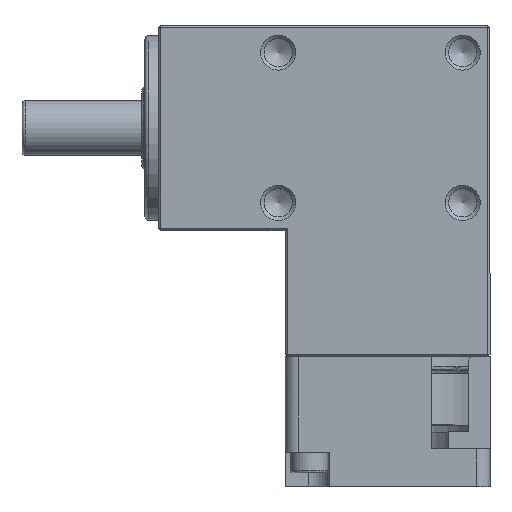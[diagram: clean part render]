
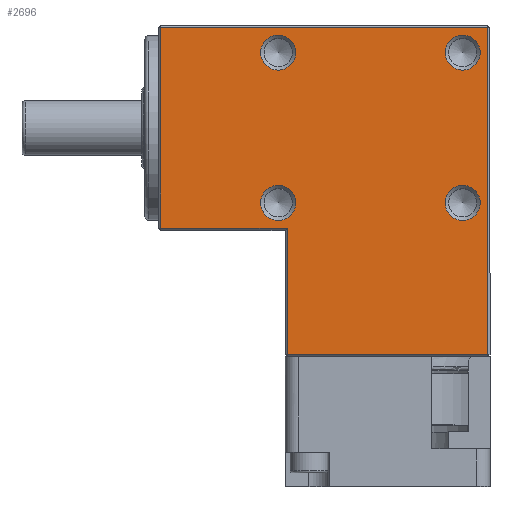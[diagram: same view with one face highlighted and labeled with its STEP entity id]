
A CAD part, top view. The second image highlights one B-rep face of the part: STEP entity #2696.
In plain terms, the highlighted planar face has unit normal (0, 0, 1).
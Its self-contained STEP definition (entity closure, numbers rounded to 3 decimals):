
#2593=CARTESIAN_POINT('',(-13.433,-11.0,30.0));
#2594=VERTEX_POINT('',#2593);
#2595=CARTESIAN_POINT('',(-16.,-11.0,30.0));
#2596=DIRECTION('',(0.0,0.0,1.0));
#2597=DIRECTION('',(-1.0,0.0,0.0));
#2598=AXIS2_PLACEMENT_3D('',#2595,#2596,#2597);
#2599=CIRCLE('',#2598,2.567);
#2600=EDGE_CURVE('',#2594,#2594,#2599,.T.);
#2605=CARTESIAN_POINT('',(0.,-24.25,30.0));
#2606=DIRECTION('',(0.0,0.0,1.0));
#2607=DIRECTION('',(1.0,0.0,0.0));
#2608=AXIS2_PLACEMENT_3D('',#2605,#2606,#2607);
#2609=PLANE('',#2608);
#2610=CARTESIAN_POINT('',(-14.7,-33.2,30.0));
#2611=VERTEX_POINT('',#2610);
#2612=CARTESIAN_POINT('',(-14.7,-14.7,30.0));
#2613=VERTEX_POINT('',#2612);
#2614=CARTESIAN_POINT('',(-14.7,-33.2,30.0));
#2615=DIRECTION('',(0.0,1.0,0.0));
#2616=VECTOR('',#2615,18.5);
#2617=LINE('',#2614,#2616);
#2618=EDGE_CURVE('',#2611,#2613,#2617,.T.);
#2619=ORIENTED_EDGE('',*,*,#2618,.F.);
#2620=CARTESIAN_POINT('',(14.7,-33.2,30.0));
#2621=VERTEX_POINT('',#2620);
#2622=CARTESIAN_POINT('',(14.7,-33.2,30.0));
#2623=DIRECTION('',(-1.0,0.0,0.0));
#2624=VECTOR('',#2623,29.4);
#2625=LINE('',#2622,#2624);
#2626=EDGE_CURVE('',#2621,#2611,#2625,.T.);
#2627=ORIENTED_EDGE('',*,*,#2626,.F.);
#2628=CARTESIAN_POINT('',(14.7,14.7,30.0));
#2629=VERTEX_POINT('',#2628);
#2630=CARTESIAN_POINT('',(14.7,14.7,30.0));
#2631=DIRECTION('',(0.0,-1.0,0.0));
#2632=VECTOR('',#2631,47.9);
#2633=LINE('',#2630,#2632);
#2634=EDGE_CURVE('',#2629,#2621,#2633,.T.);
#2635=ORIENTED_EDGE('',*,*,#2634,.F.);
#2636=CARTESIAN_POINT('',(-33.2,14.7,30.0));
#2637=VERTEX_POINT('',#2636);
#2638=CARTESIAN_POINT('',(-33.2,14.7,30.0));
#2639=DIRECTION('',(1.0,0.0,0.0));
#2640=VECTOR('',#2639,47.9);
#2641=LINE('',#2638,#2640);
#2642=EDGE_CURVE('',#2637,#2629,#2641,.T.);
#2643=ORIENTED_EDGE('',*,*,#2642,.F.);
#2644=CARTESIAN_POINT('',(-33.2,-14.7,30.0));
#2645=VERTEX_POINT('',#2644);
#2646=CARTESIAN_POINT('',(-33.2,-14.7,30.0));
#2647=DIRECTION('',(0.0,1.0,0.0));
#2648=VECTOR('',#2647,29.4);
#2649=LINE('',#2646,#2648);
#2650=EDGE_CURVE('',#2645,#2637,#2649,.T.);
#2651=ORIENTED_EDGE('',*,*,#2650,.F.);
#2652=CARTESIAN_POINT('',(-14.7,-14.7,30.0));
#2653=DIRECTION('',(-1.0,0.0,0.0));
#2654=VECTOR('',#2653,18.5);
#2655=LINE('',#2652,#2654);
#2656=EDGE_CURVE('',#2613,#2645,#2655,.T.);
#2657=ORIENTED_EDGE('',*,*,#2656,.F.);
#2658=EDGE_LOOP('',(#2619,#2627,#2635,#2643,#2651,#2657));
#2659=FACE_OUTER_BOUND('',#2658,.T.);
#2660=CARTESIAN_POINT('',(13.567,-11.0,30.0));
#2661=VERTEX_POINT('',#2660);
#2662=CARTESIAN_POINT('',(11.,-11.0,30.0));
#2663=DIRECTION('',(0.0,0.0,1.0));
#2664=DIRECTION('',(-1.0,0.0,0.0));
#2665=AXIS2_PLACEMENT_3D('',#2662,#2663,#2664);
#2666=CIRCLE('',#2665,2.567);
#2667=EDGE_CURVE('',#2661,#2661,#2666,.T.);
#2668=ORIENTED_EDGE('',*,*,#2667,.F.);
#2669=EDGE_LOOP('',(#2668));
#2670=FACE_BOUND('',#2669,.T.);
#2671=CARTESIAN_POINT('',(-13.433,11.0,30.0));
#2672=VERTEX_POINT('',#2671);
#2673=CARTESIAN_POINT('',(-16.0,11.0,30.0));
#2674=DIRECTION('',(0.0,0.0,1.0));
#2675=DIRECTION('',(-1.0,0.0,0.0));
#2676=AXIS2_PLACEMENT_3D('',#2673,#2674,#2675);
#2677=CIRCLE('',#2676,2.567);
#2678=EDGE_CURVE('',#2672,#2672,#2677,.T.);
#2679=ORIENTED_EDGE('',*,*,#2678,.F.);
#2680=EDGE_LOOP('',(#2679));
#2681=FACE_BOUND('',#2680,.T.);
#2682=CARTESIAN_POINT('',(13.567,11.0,30.0));
#2683=VERTEX_POINT('',#2682);
#2684=CARTESIAN_POINT('',(11.0,11.0,30.0));
#2685=DIRECTION('',(0.0,0.0,1.0));
#2686=DIRECTION('',(-1.0,0.0,0.0));
#2687=AXIS2_PLACEMENT_3D('',#2684,#2685,#2686);
#2688=CIRCLE('',#2687,2.567);
#2689=EDGE_CURVE('',#2683,#2683,#2688,.T.);
#2690=ORIENTED_EDGE('',*,*,#2689,.F.);
#2691=EDGE_LOOP('',(#2690));
#2692=FACE_BOUND('',#2691,.T.);
#2693=ORIENTED_EDGE('',*,*,#2600,.F.);
#2694=EDGE_LOOP('',(#2693));
#2695=FACE_BOUND('',#2694,.T.);
#2696=ADVANCED_FACE('',(#2659,#2670,#2681,#2692,#2695),#2609,.T.);
